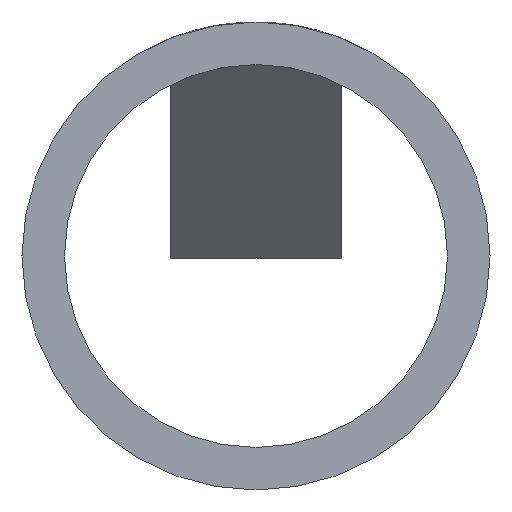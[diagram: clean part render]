
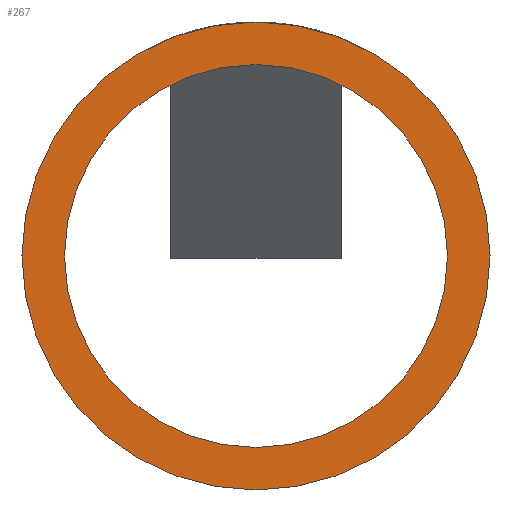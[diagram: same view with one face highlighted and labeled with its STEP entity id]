
A CAD part, front view. The second image highlights one B-rep face of the part: STEP entity #267.
In plain terms, the highlighted planar face has unit normal (0, -1, 0).
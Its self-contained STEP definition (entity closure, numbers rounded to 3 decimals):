
#3 = ORIENTED_EDGE ( 'NONE', *, *, #230, .F. ) ;
#4 = ORIENTED_EDGE ( 'NONE', *, *, #254, .F. ) ;
#28 = CIRCLE ( 'NONE', #250, 5.5 ) ;
#29 = ORIENTED_EDGE ( 'NONE', *, *, #249, .T. ) ;
#30 = EDGE_LOOP ( 'NONE', ( #4, #3 ) ) ;
#51 = EDGE_LOOP ( 'NONE', ( #29, #99 ) ) ;
#53 = CIRCLE ( 'NONE', #192, 5.5 ) ;
#57 = CIRCLE ( 'NONE', #225, 4.5 ) ;
#99 = ORIENTED_EDGE ( 'NONE', *, *, #198, .T. ) ;
#125 = CIRCLE ( 'NONE', #217, 4.5 ) ;
#134 = FACE_OUTER_BOUND ( 'NONE', #51, .T. ) ;
#148 = FACE_BOUND ( 'NONE', #30, .T. ) ;
#192 = AXIS2_PLACEMENT_3D ( 'NONE', #310, #466, #311 ) ;
#198 = EDGE_CURVE ( 'NONE', #411, #349, #28, .T. ) ;
#215 = AXIS2_PLACEMENT_3D ( 'NONE', #496, #486, #336 ) ;
#217 = AXIS2_PLACEMENT_3D ( 'NONE', #414, #498, #314 ) ;
#225 = AXIS2_PLACEMENT_3D ( 'NONE', #309, #306, #452 ) ;
#230 = EDGE_CURVE ( 'NONE', #405, #397, #125, .T. ) ;
#249 = EDGE_CURVE ( 'NONE', #349, #411, #53, .T. ) ;
#250 = AXIS2_PLACEMENT_3D ( 'NONE', #363, #385, #386 ) ;
#254 = EDGE_CURVE ( 'NONE', #397, #405, #57, .T. ) ;
#267 = ADVANCED_FACE ( 'NONE', ( #134, #148 ), #337, .T. ) ;
#284 = CARTESIAN_POINT ( 'NONE',  ( 4.5, 0., 0. ) ) ;
#293 = CARTESIAN_POINT ( 'NONE',  ( -5.5, 0., 0. ) ) ;
#306 = DIRECTION ( 'NONE',  ( 0., -1., 0. ) ) ;
#309 = CARTESIAN_POINT ( 'NONE',  ( 0., 0., 0. ) ) ;
#310 = CARTESIAN_POINT ( 'NONE',  ( 0., 0., 0. ) ) ;
#311 = DIRECTION ( 'NONE',  ( -1., 0., 0. ) ) ;
#314 = DIRECTION ( 'NONE',  ( -1., 0., 0. ) ) ;
#318 = CARTESIAN_POINT ( 'NONE',  ( 5.5, 0., 0. ) ) ;
#336 = DIRECTION ( 'NONE',  ( -1., 0., 0. ) ) ;
#337 = PLANE ( 'NONE',  #215 ) ;
#349 = VERTEX_POINT ( 'NONE', #318 ) ;
#363 = CARTESIAN_POINT ( 'NONE',  ( 0., 0., 0. ) ) ;
#385 = DIRECTION ( 'NONE',  ( 0., -1., 0. ) ) ;
#386 = DIRECTION ( 'NONE',  ( -1., 0., 0. ) ) ;
#397 = VERTEX_POINT ( 'NONE', #284 ) ;
#405 = VERTEX_POINT ( 'NONE', #422 ) ;
#411 = VERTEX_POINT ( 'NONE', #293 ) ;
#414 = CARTESIAN_POINT ( 'NONE',  ( 0., 0., 0. ) ) ;
#422 = CARTESIAN_POINT ( 'NONE',  ( -4.5, 0., 0. ) ) ;
#452 = DIRECTION ( 'NONE',  ( -1., 0., 0. ) ) ;
#466 = DIRECTION ( 'NONE',  ( 0., -1., 0. ) ) ;
#486 = DIRECTION ( 'NONE',  ( 0., -1., 0. ) ) ;
#496 = CARTESIAN_POINT ( 'NONE',  ( 0., 0., 0. ) ) ;
#498 = DIRECTION ( 'NONE',  ( 0., -1., 0. ) ) ;
